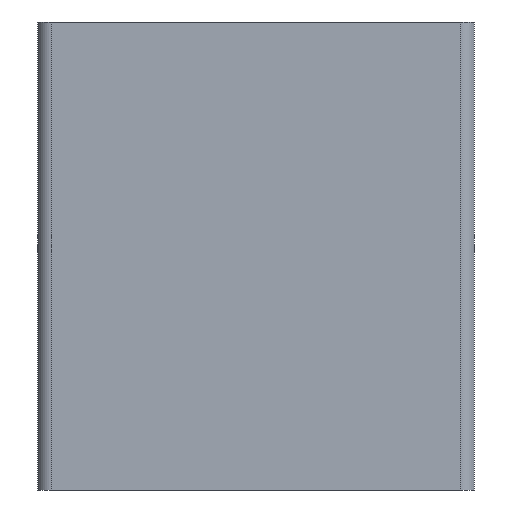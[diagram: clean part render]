
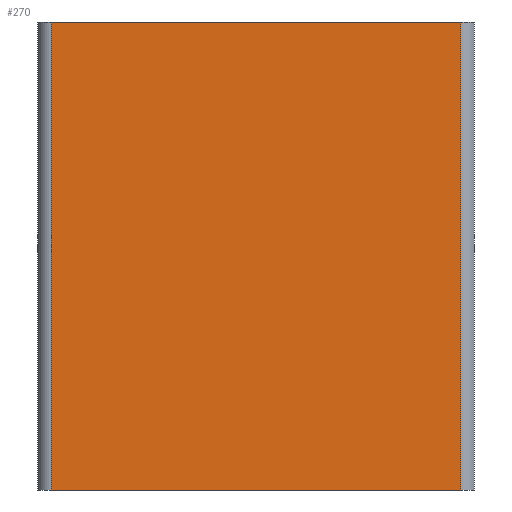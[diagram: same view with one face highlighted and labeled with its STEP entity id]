
A CAD part, front view. The second image highlights one B-rep face of the part: STEP entity #270.
In plain terms, the highlighted planar face has unit normal (0, -1, 0).
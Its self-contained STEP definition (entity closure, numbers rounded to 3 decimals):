
#63 = VERTEX_POINT('',#64);
#64 = CARTESIAN_POINT('',(-59.,-54.,341.));
#71 = EDGE_CURVE('',#63,#72,#74,.T.);
#72 = VERTEX_POINT('',#73);
#73 = CARTESIAN_POINT('',(59.,-54.,341.));
#74 = LINE('',#75,#76);
#75 = CARTESIAN_POINT('',(-63.,-54.,341.));
#76 = VECTOR('',#77,1.);
#77 = DIRECTION('',(1.,0.,0.));
#129 = VERTEX_POINT('',#130);
#130 = CARTESIAN_POINT('',(-59.,-54.,206.));
#137 = EDGE_CURVE('',#129,#63,#138,.T.);
#138 = LINE('',#139,#140);
#139 = CARTESIAN_POINT('',(-59.,-54.,206.));
#140 = VECTOR('',#141,1.);
#141 = DIRECTION('',(0.,0.,1.));
#214 = EDGE_CURVE('',#129,#215,#217,.T.);
#215 = VERTEX_POINT('',#216);
#216 = CARTESIAN_POINT('',(59.,-54.,206.));
#217 = LINE('',#218,#219);
#218 = CARTESIAN_POINT('',(-63.,-54.,206.));
#219 = VECTOR('',#220,1.);
#220 = DIRECTION('',(1.,0.,0.));
#270 = ADVANCED_FACE('',(#271),#282,.F.);
#271 = FACE_BOUND('',#272,.F.);
#272 = EDGE_LOOP('',(#273,#274,#275,#276));
#273 = ORIENTED_EDGE('',*,*,#214,.F.);
#274 = ORIENTED_EDGE('',*,*,#137,.T.);
#275 = ORIENTED_EDGE('',*,*,#71,.T.);
#276 = ORIENTED_EDGE('',*,*,#277,.F.);
#277 = EDGE_CURVE('',#215,#72,#278,.T.);
#278 = LINE('',#279,#280);
#279 = CARTESIAN_POINT('',(59.,-54.,206.));
#280 = VECTOR('',#281,1.);
#281 = DIRECTION('',(0.,0.,1.));
#282 = PLANE('',#283);
#283 = AXIS2_PLACEMENT_3D('',#284,#285,#286);
#284 = CARTESIAN_POINT('',(-63.,-54.,206.));
#285 = DIRECTION('',(0.,1.,0.));
#286 = DIRECTION('',(0.,0.,1.));
